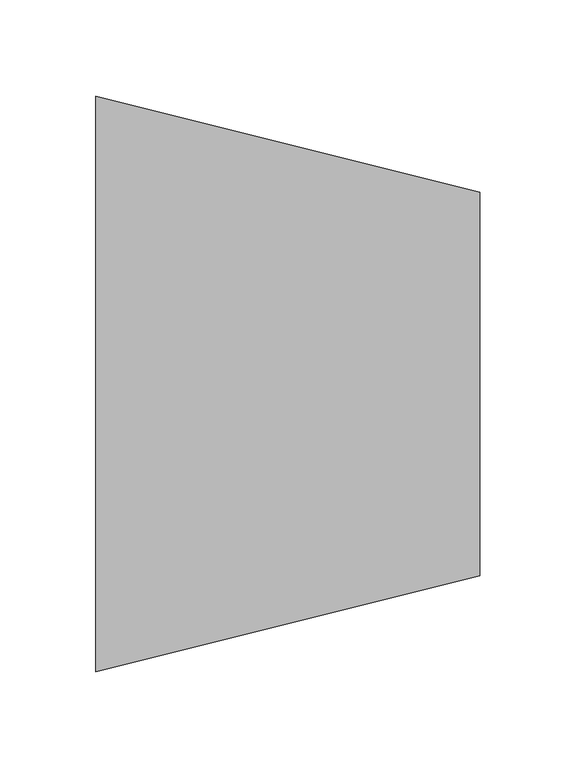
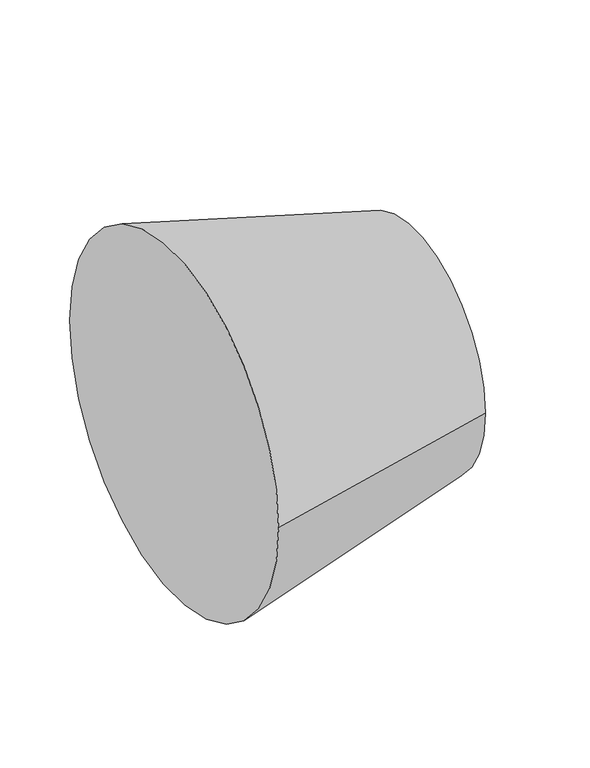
"""IFC4 building model written with IfcOpenShell, lengths in millimetres: duct fitting geometry, BL_ПереходникВоздуховодов_Круглый : Ниппельное соединение."""

from ifc_helpers import new_model, si_unit, frame, origin, place, context, project, spatial, polyline, circle_curve, source, transform, mapped, element, save
from ifc_brep_helpers import plane_surface, revolved_surface, advanced_brep


def duct_fitting_327ef4ee(model_context):
    return source(origin(), model_context, "Body", "AdvancedBrep", [
        advanced_brep(
        [(200.0, -100.0, 0.0), (200.0, 100.0, 0.0), (0.0, -150.0, 0.0), (0.0, 150.0, 0.0)],
        [
            (0, 1, circle_curve(frame((200.0, 0.0, 0.0), z_axis=(1.0, 0.0, 0.0), x_axis=(0.0, -1.0, 0.0)), 100.0)),
            (1, 0, circle_curve(frame((200.0, 0.0, 0.0), z_axis=(1.0, 0.0, 0.0), x_axis=(0.0, 1.0, 0.0)), 100.0)),
            (2, 3, circle_curve(frame((0.0, 0.0, 0.0), z_axis=(-1.0, 0.0, 0.0), x_axis=(0.0, 1.0, 0.0)), 150.0)),
            (3, 2, circle_curve(frame((0.0, 0.0, 0.0), z_axis=(-1.0, 0.0, 0.0), x_axis=(0.0, -1.0, 0.0)), 150.0)),
            (3, 1),
            (0, 2),
        ],
        [
            plane_surface(frame((200.0, 0.0, 0.0), z_axis=(1.0, 0.0, 0.0), x_axis=(0.0, 0.0, -1.0))),
            plane_surface(frame((0.0, 0.0, 0.0), z_axis=(-1.0, 0.0, 0.0), x_axis=(0.0, 0.0, -1.0))),
            revolved_surface(polyline([(200.0, -100.0, 0.0), (0.0, -150.0, 0.0)]), (600.0, 0.0, 0.0), (-1.0, 0.0, 0.0)),
            revolved_surface(polyline([(200.0, 100.0, 0.0), (0.0, 150.0, 0.0)]), (600.0, 0.0, 0.0), (-1.0, 0.0, 0.0)),
        ],
        [
            (0, [[1, 2]]),
            (1, [[3, 4]]),
            (2, [[-4, 5, -1, 6]]),
            (3, [[-3, -6, -2, -5]]),
        ],
    ),
    ])


if __name__ == "__main__":
    model = new_model("IFC4")
    model_context = context("Model", 3, world=origin())
    ifc_project = project(units=[si_unit("LENGTHUNIT", "METRE", prefix="MILLI")], contexts=[model_context])
    site = spatial("IfcSite", under=ifc_project)
    building = spatial("IfcBuilding", under=site)
    placement = place(None, origin())
    duct_fitting_shape = duct_fitting_327ef4ee(model_context)
    element("IfcDuctFitting", 1, ObjectType="BL_ПереходникВоздуховодов_Круглый : Ниппельное соединение", at=placement, inside=building, context=model_context, shape_type="MappedRepresentation", body=[
        mapped(duct_fitting_shape, transform((0.0, 0.0, 0.0), x_axis=(1.0, 0.0, 0.0), y_axis=(0.0, 1.0, 0.0), z_axis=(0.0, 0.0, 1.0))),
    ])
    save(model, "model.ifc")
